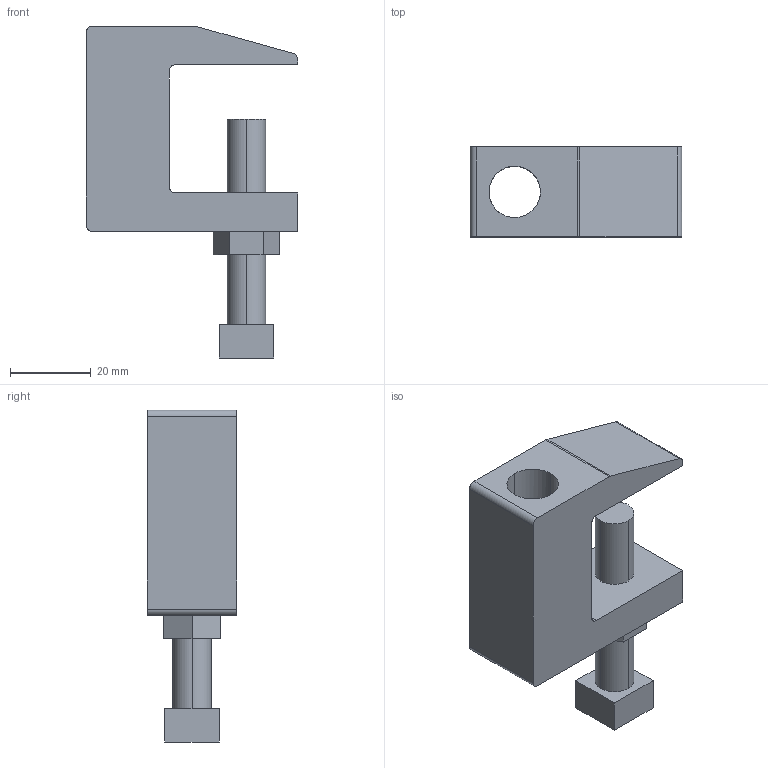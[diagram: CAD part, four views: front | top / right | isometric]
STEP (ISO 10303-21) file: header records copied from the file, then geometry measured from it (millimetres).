
FILE_DESCRIPTION(('TurboCAD Mac Pro'),'Build 980');
FILE_NAME('P2899-50.stp',' ',(''),(''),'ACIS Interop','IMSI','TurboCAD Mac Pro BY IMSI, INCORPORATED');
FILE_SCHEMA(('automotive_design'));
Length unit declared in the file: inch
Products named in the file (3): 1; 2; 3
Bounding box: 52.27 x 22.23 x 82.06 mm (x, y, z)
Volume: 33210.9 mm3; surface area: 13812.4 mm2
Topology: 3 solids, 3 shells, 48 faces, 123 edges, 82 vertices
Faces by surface type: plane 26, bspline 21, cylinder 1
Entity records: 2021 total; most frequent: CARTESIAN_POINT 529, ORIENTED_EDGE 246, DIRECTION 143, EDGE_CURVE 123, VERTEX_POINT 82, LINE 79, VECTOR 79, EDGE_LOOP 55
